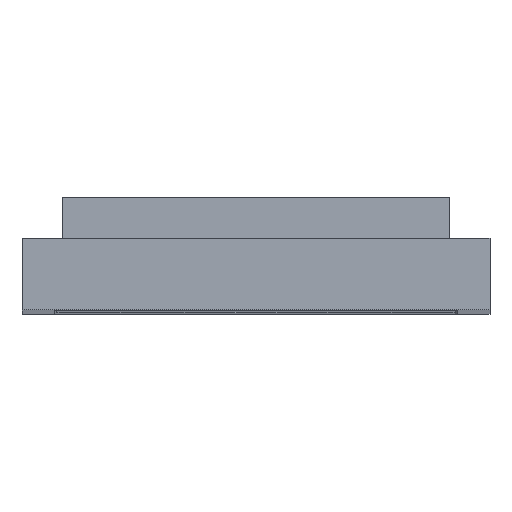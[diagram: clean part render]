
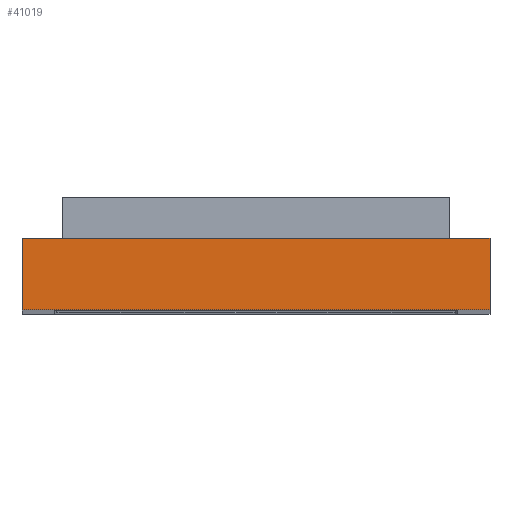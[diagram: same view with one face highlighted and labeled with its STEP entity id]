
A CAD part, top view. The second image highlights one B-rep face of the part: STEP entity #41019.
In plain terms, the highlighted planar face has unit normal (0, 0, 1).
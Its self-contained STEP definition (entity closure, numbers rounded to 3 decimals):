
#5317=PLANE('',#43838);
#5822=FACE_OUTER_BOUND('',#8433,.T.);
#8433=EDGE_LOOP('',(#28111,#28112,#28113,#28114));
#11131=LINE('',#59881,#13470);
#11165=LINE('',#59961,#13504);
#11178=LINE('',#59988,#13517);
#11182=LINE('',#59995,#13521);
#13470=VECTOR('',#48467,10.);
#13504=VECTOR('',#48543,10.);
#13517=VECTOR('',#48566,10.);
#13521=VECTOR('',#48574,10.);
#18074=VERTEX_POINT('',#59878);
#18075=VERTEX_POINT('',#59880);
#18100=VERTEX_POINT('',#59959);
#18109=VERTEX_POINT('',#59987);
#21695=EDGE_CURVE('',#18074,#18075,#11131,.T.);
#21739=EDGE_CURVE('',#18074,#18100,#11165,.T.);
#21752=EDGE_CURVE('',#18100,#18109,#11178,.T.);
#21756=EDGE_CURVE('',#18075,#18109,#11182,.T.);
#28111=ORIENTED_EDGE('',*,*,#21752,.T.);
#28112=ORIENTED_EDGE('',*,*,#21756,.F.);
#28113=ORIENTED_EDGE('',*,*,#21695,.F.);
#28114=ORIENTED_EDGE('',*,*,#21739,.T.);
#41019=ADVANCED_FACE('',(#5822),#5317,.T.);
#43838=AXIS2_PLACEMENT_3D('',#60078,#48684,#48685);
#48467=DIRECTION('',(-1.,0.,0.));
#48543=DIRECTION('',(0.,1.,0.));
#48566=DIRECTION('',(-1.,0.,0.));
#48574=DIRECTION('',(0.,1.,0.));
#48684=DIRECTION('center_axis',(0.,0.,1.));
#48685=DIRECTION('ref_axis',(1.,0.,0.));
#59878=CARTESIAN_POINT('',(145.7,-1.25,0.));
#59880=CARTESIAN_POINT('',(0.,-1.25,0.));
#59881=CARTESIAN_POINT('',(109.275,-1.25,0.));
#59959=CARTESIAN_POINT('',(145.7,21.05,0.));
#59961=CARTESIAN_POINT('',(145.7,-1.251,0.));
#59987=CARTESIAN_POINT('',(0.,21.05,0.));
#59988=CARTESIAN_POINT('',(109.275,21.05,0.));
#59995=CARTESIAN_POINT('',(0.,-1.251,0.));
#60078=CARTESIAN_POINT('Origin',(145.7,-1.251,0.));
